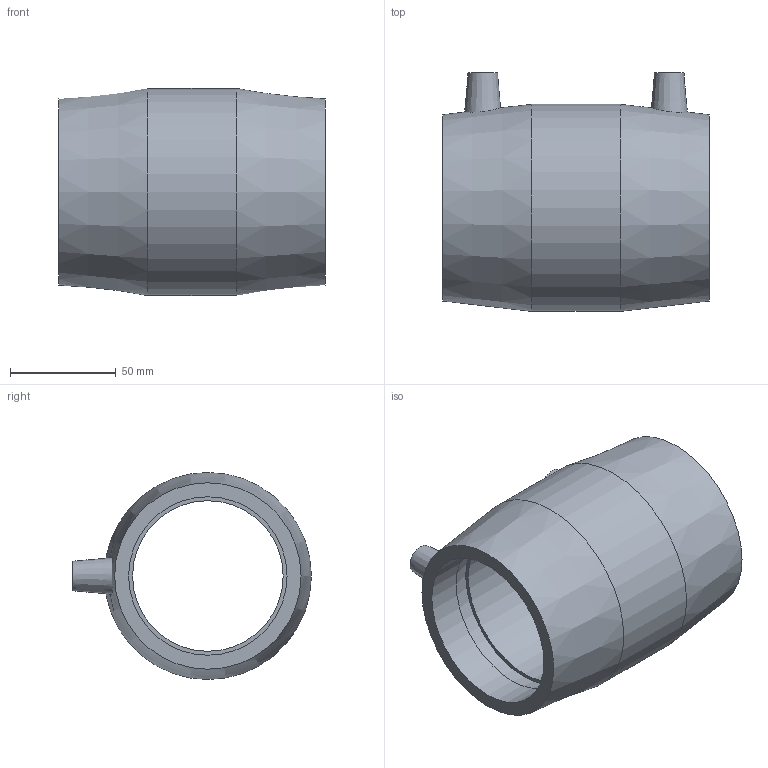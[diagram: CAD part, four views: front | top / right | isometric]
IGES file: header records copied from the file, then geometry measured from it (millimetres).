
Global section: file name: 490104075.ipt; native system: Autodesk Inventor 2015; preprocessor: unknown; author: KIM; date: 20171106.093546; units: millimetre
Bounding box: 126 x 113 x 98 mm (x, y, z)
Volume: 335787.9 mm3; surface area: 75337.2 mm2
Topology: 1 solids, 1 shells, 28 faces, 64 edges, 46 vertices
Faces by surface type: plane 12, revolution 9, cone 4, cylinder 3
Full cylindrical faces by diameter (mm): 4 x2, 98 x1
